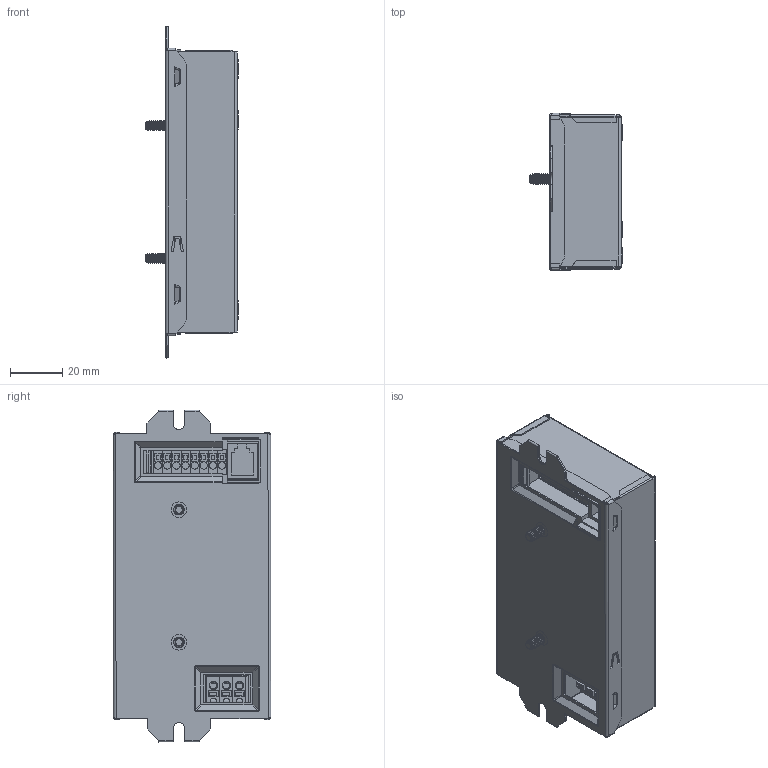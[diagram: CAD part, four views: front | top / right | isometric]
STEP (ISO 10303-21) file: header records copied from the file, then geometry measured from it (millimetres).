
FILE_DESCRIPTION((''),'2;1');
FILE_NAME('G2__CASE_2409170001_ASM','2025-08-15T14:11:47',('Administrator'),(''),'CREO PARAMETRIC BY PTC INC, 2020053','CREO PARAMETRIC BY PTC INC, 2020053','');
FILE_SCHEMA(('CONFIG_CONTROL_DESIGN','SHAPE_APPEARANCE_LAYERS_GROUPS'));
Length unit declared in the file: inch
Products named in the file (14): M3_4MM_LUOZHU_2_1; PCB_1_1; RJ9_1_1; DUANZI_1_1; DUANZI_DUANGAI_1_1; DUANZI_SHURU_1_1; JUNO_SHUCHUHUTAO_9_1; JUNO_SHURUHUTAO_2_1; G2_TOP_XIAKAIKOU_3_1_1; LUOZHU-M4_1_1; IVO00_1; JUNO_SHICHAN_ASM_16_ASM_1_ASM; G2__CASE_240917_ASM_1_ASM; G2__CASE_2409170001_ASM
Assembly tree (26 placements, depth 4):
  G2__CASE_2409170001_ASM
    G2__CASE_240917_ASM_1_ASM
      JUNO_SHICHAN_ASM_16_ASM_1_ASM
        M3_4MM_LUOZHU_2_1  x3
        PCB_1_1
        RJ9_1_1
        DUANZI_1_1  x8
        DUANZI_DUANGAI_1_1  x2
        DUANZI_SHURU_1_1  x3
        JUNO_SHUCHUHUTAO_9_1
        JUNO_SHURUHUTAO_2_1
        G2_TOP_XIAKAIKOU_3_1_1
        LUOZHU-M4_1_1  x2
        IVO00_1
Bounding box: 35.31 x 60.33 x 127.3 mm (x, y, z)
Volume: 32987.3 mm3; surface area: 75728.7 mm2
Topology: 24 solids, 24 shells, 2699 faces, 7026 edges, 4538 vertices
Faces by surface type: plane 1229, cylinder 1119, cone 235, bspline 104, torus 10, sphere 2
Entity records: 65298 total; most frequent: CARTESIAN_POINT 16412, ORIENTED_EDGE 7678, DIRECTION 7634, EDGE_CURVE 3839, PRESENTATION_STYLE_ASSIGNMENT 3224, STYLED_ITEM 3224, CURVE_STYLE 2716, AXIS2_PLACEMENT_3D 2697
